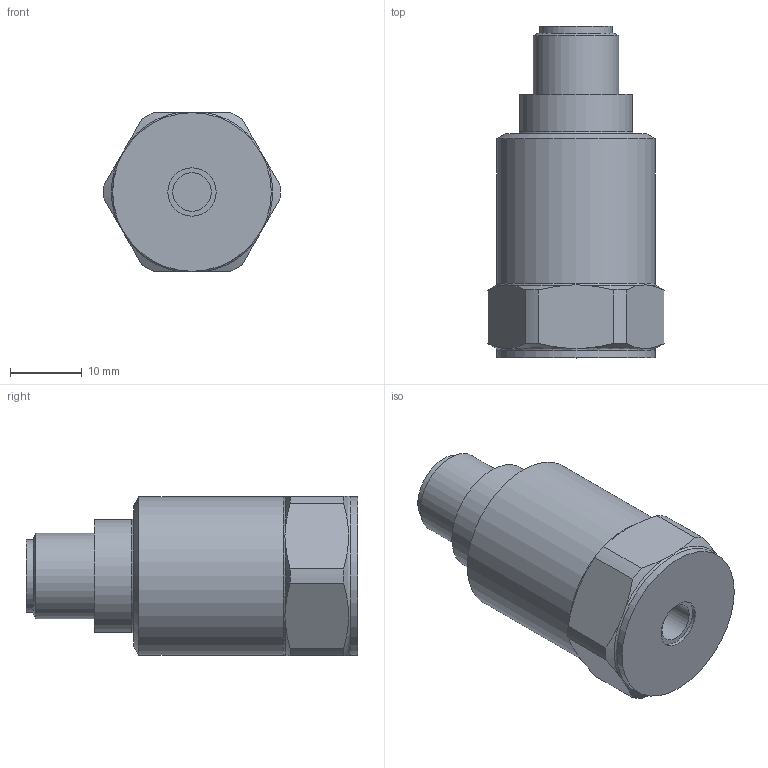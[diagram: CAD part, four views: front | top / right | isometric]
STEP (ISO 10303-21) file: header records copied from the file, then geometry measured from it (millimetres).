
FILE_DESCRIPTION(/* description */ (''),/* implementation_level */ '2;1');
FILE_NAME(/* name */ 'C:\Users\kreumann\Desktop\STEP FILES\601A92\601A92.stp',/* time_stamp */ '2019-08-05T08:15:18-04:00',/* author */ ('kreumann'),/* organization */ (''),/* preprocessor_version */ 'ST-DEVELOPER v17',/* originating_system */ 'Autodesk Inventor 2019',/* authorisation */ '');
FILE_SCHEMA (('AUTOMOTIVE_DESIGN { 1 0 10303 214 3 1 1 }'));
Length unit declared in the file: inch
Products named in the file (1): 601A92 ENVELOPE
Bounding box: 24.58 x 46.23 x 22.23 mm (x, y, z)
Volume: 13710.7 mm3; surface area: 4081.6 mm2
Topology: 1 solids, 1 shells, 60 faces, 172 edges, 121 vertices
Faces by surface type: cylinder 20, plane 19, cone 14, bspline 4, torus 3
Full cylindrical faces by diameter (mm): 0.991 x4, 5.359 x1, 6.731 x1, 8.357 x1, 10.16 x1, 11.887 x1, 15.748 x1, 22.098 x2
Entity records: 2245 total; most frequent: CARTESIAN_POINT 569, ORIENTED_EDGE 336, DIRECTION 336, EDGE_CURVE 168, AXIS2_PLACEMENT_3D 149, VERTEX_POINT 121, CIRCLE 92, EDGE_LOOP 71
